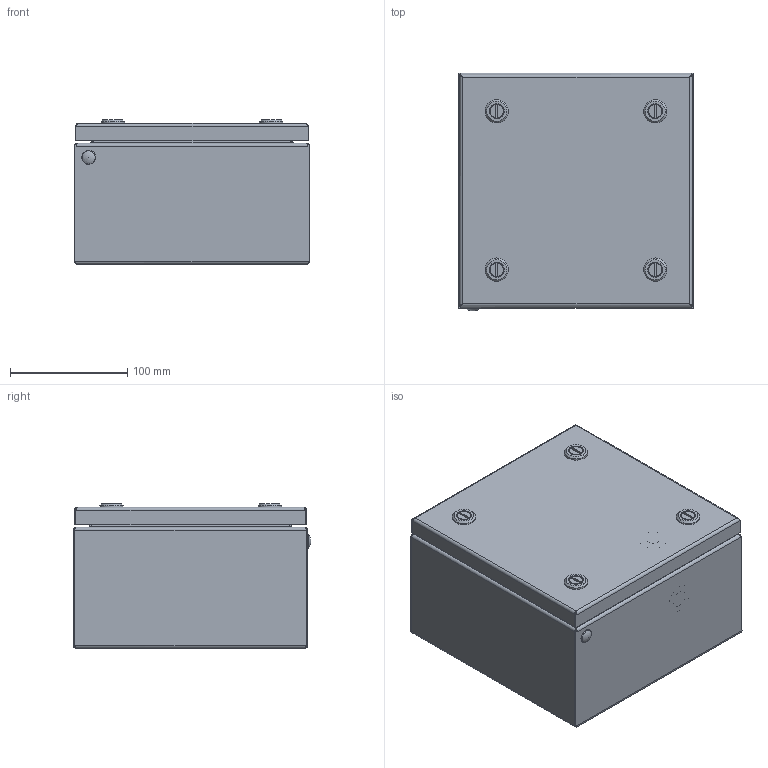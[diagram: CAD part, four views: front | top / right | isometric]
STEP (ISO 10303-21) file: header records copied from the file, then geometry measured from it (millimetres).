
FILE_DESCRIPTION (( 'STEP AP214' ), '1' );
FILE_NAME ('BCS 20.20.12 Êîðîáêà.STEP', '2022-09-13T11:43:22', ( '' ), ( '' ), 'SwSTEP 2.0', 'SolidWorks 2019', '' );
FILE_SCHEMA (( 'AUTOMOTIVE_DESIGN' ));
Length unit declared in the file: millimetre
Products named in the file (1): BCS 20.20.12 Êîðîáêà
Bounding box: 200 x 202.5 x 123 mm (x, y, z)
Volume: 337104.7 mm3; surface area: 499175.1 mm2
Topology: 36 solids, 36 shells, 1749 faces, 4260 edges, 2655 vertices
Faces by surface type: plane 1122, cylinder 369, cone 113, bspline 89, torus 47, sphere 9
Full cylindrical faces by diameter (mm): 3.2 x22, 6 x4, 7 x6, 9 x4, 9.3 x1, 10 x1, 12 x1, 14 x1, 24 x1, 24.8 x1
Entity records: 84654 total; most frequent: CARTESIAN_POINT 25247, ORIENTED_EDGE 8376, DIRECTION 7704, EDGE_CURVE 4188, LINE 2818, VECTOR 2818, VERTEX_POINT 2651, AXIS2_PLACEMENT_3D 2443
